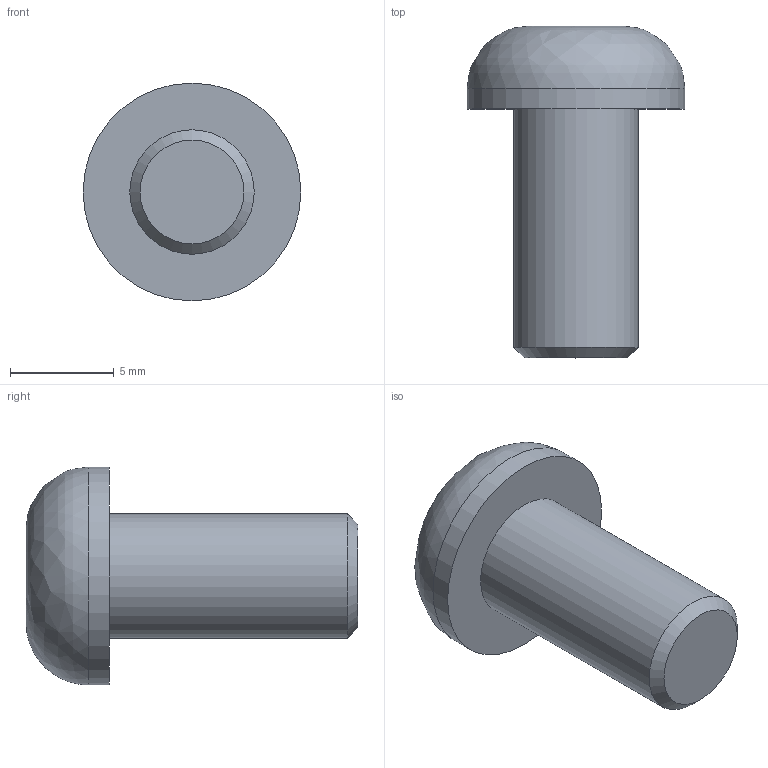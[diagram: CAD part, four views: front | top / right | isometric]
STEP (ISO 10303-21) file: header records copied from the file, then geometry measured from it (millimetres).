
FILE_DESCRIPTION(/* description */ (''),/* implementation_level */ '2;1');
FILE_NAME(/* name */ 'C:\Users\AMS43\Documents\Inventor\AMS\misumi\ボルト_ipt\ボルト_stp\BCSS-06-12.ipt.stp',/* time_stamp */ '2016-10-06T11:46:35+09:00',/* author */ ('AMS43'),/* organization */ (''),/* preprocessor_version */ 'ST-DEVELOPER v15.2',/* originating_system */ 'Autodesk Inventor 2014',/* authorisation */ '');
FILE_SCHEMA (('AUTOMOTIVE_DESIGN { 1 0 10303 214 3 1 1 }'));
Length unit declared in the file: metre
Products named in the file (1): BCSS-06-12
Bounding box: 10.5 x 16 x 10.5 mm (x, y, z)
Volume: 584.2 mm3; surface area: 519.7 mm2
Topology: 1 solids, 1 shells, 25 faces, 61 edges, 38 vertices
Faces by surface type: plane 20, cylinder 2, cone 2, bspline 1
Full cylindrical faces by diameter (mm): 6 x1, 10.5 x1
Entity records: 759 total; most frequent: CARTESIAN_POINT 185, ORIENTED_EDGE 110, DIRECTION 110, EDGE_CURVE 55, AXIS2_PLACEMENT_3D 43, VERTEX_POINT 36, EDGE_LOOP 29, FACE_OUTER_BOUND 25
